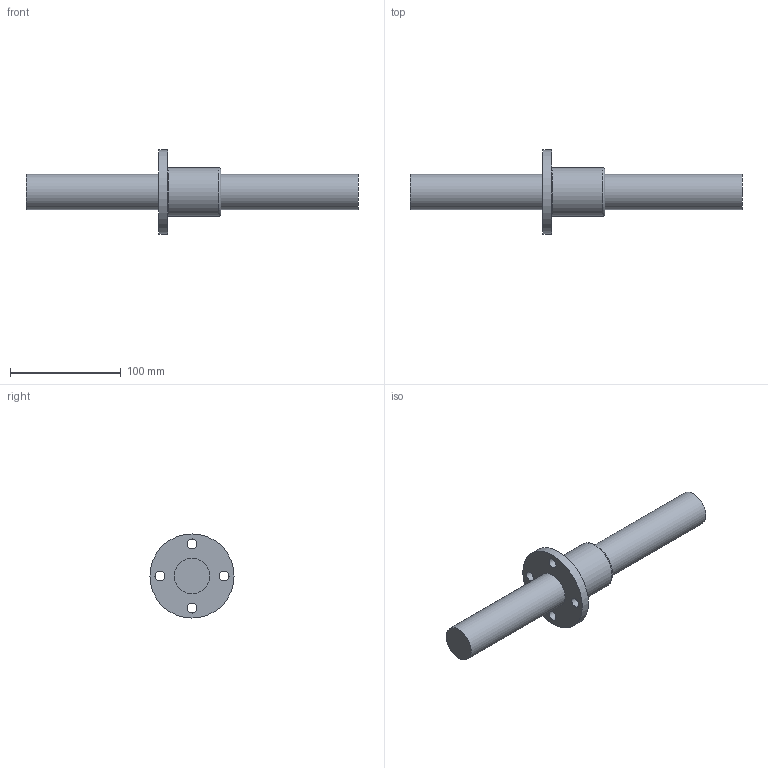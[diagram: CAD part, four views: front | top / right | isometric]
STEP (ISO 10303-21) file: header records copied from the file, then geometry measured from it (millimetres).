
FILE_DESCRIPTION((''),'2;1');
FILE_NAME('D:\製品 (図面)\カタログ用3D\ネジ関連\STEP形式\TMF\TMF32.stp','2010-06-02T15:00:19',('Tsuchiya'),(''),'Autodesk Inventor 10','Autodesk Inventor 10','');
FILE_SCHEMA(('AUTOMOTIVE_DESIGN { 1 0 10303 214 1 1 1 1 }'));
Length unit declared in the file: millimetre
Products named in the file (3): TMF32; TMF321; TMF322
Assembly tree (2 placements, depth 2):
  TMF32
    TMF321
    TMF322
Bounding box: 300 x 76 x 76 mm (x, y, z)
Volume: 303368.9 mm3; surface area: 53652.9 mm2
Topology: 2 solids, 2 shells, 15 faces, 32 edges, 22 vertices
Faces by surface type: cylinder 8, plane 5, torus 1, bspline 1
Full cylindrical faces by diameter (mm): 9 x4, 32 x2, 44 x1, 76 x1
Entity records: 470 total; most frequent: CARTESIAN_POINT 100, DIRECTION 74, AXIS2_PLACEMENT_3D 37, ORIENTED_EDGE 36, EDGE_LOOP 36, FACE_BOUND 21, VERTEX_POINT 18, CIRCLE 18
